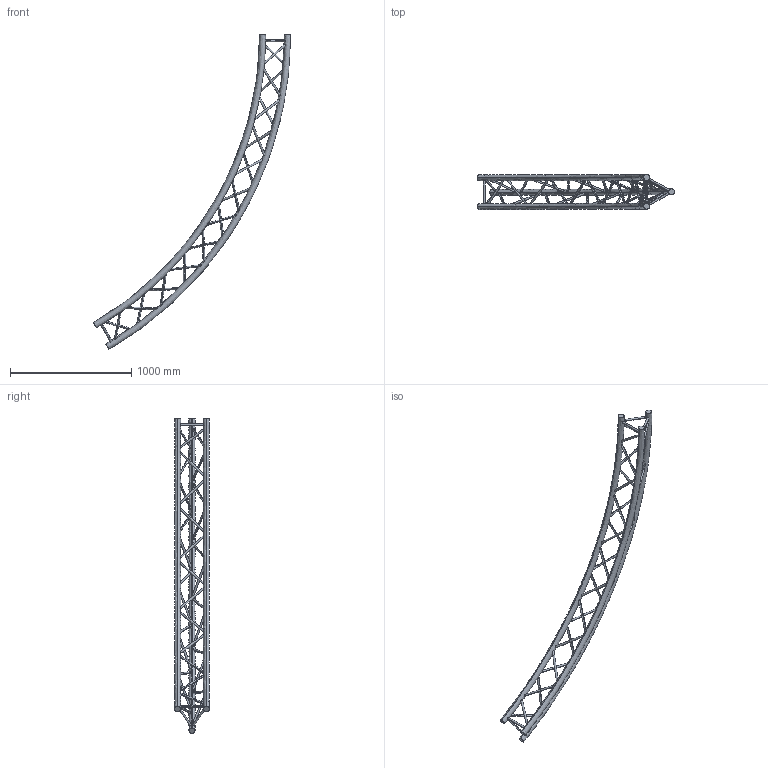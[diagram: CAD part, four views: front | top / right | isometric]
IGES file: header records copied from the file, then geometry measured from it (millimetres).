
Start section: SolidWorks IGES file using analytic representation for surfaces
Global section: file name: K:\BIBLIO\asd_biblio\SX290\Cercles\SXC29PE\SXC29600PE\SXC29600PE.IGS; native system: SolidWorks 2009; preprocessor: SolidWorks 2009; author: des3; date: 091021.113048; units: millimetre
Bounding box: 1627.62 x 287 x 2598.08 mm (x, y, z)
Surface area: 1924654.5 mm2 (no closed solid volume)
Topology: 0 solids, 0 shells, 96 faces, 6788 edges, 6788 vertices
Faces by surface type: revolution 84, bspline 12
